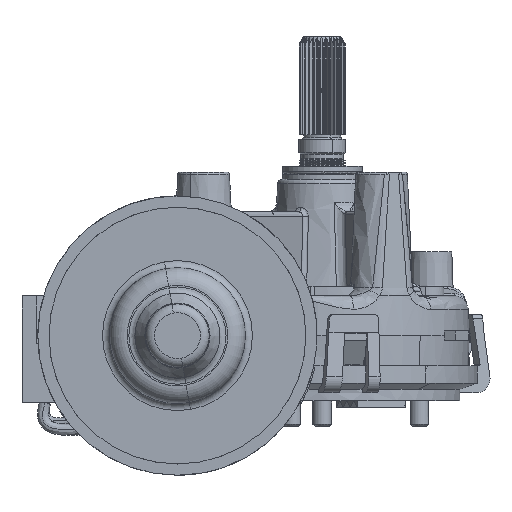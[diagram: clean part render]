
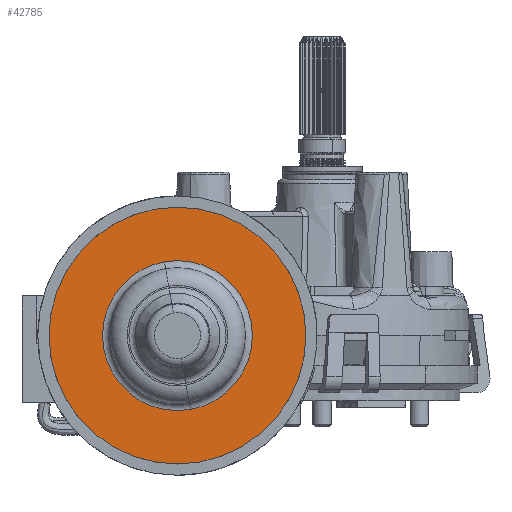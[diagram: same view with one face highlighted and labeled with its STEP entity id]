
A CAD part, front view. The second image highlights one B-rep face of the part: STEP entity #42785.
In plain terms, the highlighted planar face has unit normal (0, -1, 0).
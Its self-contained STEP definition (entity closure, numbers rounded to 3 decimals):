
#18711=CARTESIAN_POINT('Vertex',(112.429,-111.3,-13.639)) ;
#18864=CARTESIAN_POINT('Vertex',(94.079,-111.3,36.778)) ;
#18992=CARTESIAN_POINT('Vertex',(120.708,-111.3,24.36)) ;
#19043=CARTESIAN_POINT('Vertex',(124.847,-111.3,12.99)) ;
#19080=CARTESIAN_POINT('Vertex',(82.709,-111.3,32.639)) ;
#19201=CARTESIAN_POINT('Vertex',(101.059,-111.3,-17.778)) ;
#19235=CARTESIAN_POINT('Vertex',(74.43,-111.3,-5.36)) ;
#19281=CARTESIAN_POINT('Vertex',(70.291,-111.3,6.01)) ;
#30421=CARTESIAN_POINT('Control Point',(112.429,-111.3,-13.639)) ;
#30422=CARTESIAN_POINT('Control Point',(110.136,-111.3,-15.112)) ;
#30423=CARTESIAN_POINT('Control Point',(107.649,-111.3,-16.281)) ;
#30424=CARTESIAN_POINT('Control Point',(105.028,-111.3,-17.109)) ;
#30425=CARTESIAN_POINT('Control Point',(102.344,-111.3,-17.582)) ;
#30426=CARTESIAN_POINT('Vertex',(102.344,-111.3,-17.582)) ;
#30441=CARTESIAN_POINT('Axis2P3D Location',(97.569,-111.3,9.5)) ;
#30446=CARTESIAN_POINT('Axis2P3D Location',(97.569,-111.3,9.5)) ;
#30481=CARTESIAN_POINT('Axis2P3D Location',(97.569,-111.3,9.5)) ;
#30537=CARTESIAN_POINT('Vertex',(92.794,-111.3,36.582)) ;
#30540=CARTESIAN_POINT('Axis2P3D Location',(97.569,-111.3,9.5)) ;
#30552=CARTESIAN_POINT('Axis2P3D Location',(97.569,-111.3,9.5)) ;
#30564=CARTESIAN_POINT('Axis2P3D Location',(97.569,-111.3,9.5)) ;
#30569=CARTESIAN_POINT('Axis2P3D Location',(97.569,-111.3,9.5)) ;
#30589=CARTESIAN_POINT('Axis2P3D Location',(97.569,-111.3,9.5)) ;
#30621=CARTESIAN_POINT('Axis2P3D Location',(97.569,-111.3,9.5)) ;
#42750=CARTESIAN_POINT('Axis2P3D Location',(97.569,-111.3,9.5)) ;
#42767=CARTESIAN_POINT('Axis2P3D Location',(97.569,-111.3,9.5)) ;
#42771=CARTESIAN_POINT('Vertex',(100.356,-111.3,-6.306)) ;
#42773=CARTESIAN_POINT('Vertex',(94.782,-111.3,25.306)) ;
#42776=CARTESIAN_POINT('Axis2P3D Location',(97.569,-111.3,9.5)) ;
#30442=DIRECTION('Axis2P3D Direction',(0.,1.,0.)) ;
#30447=DIRECTION('Axis2P3D Direction',(0.,1.,0.)) ;
#30482=DIRECTION('Axis2P3D Direction',(0.,1.,0.)) ;
#30541=DIRECTION('Axis2P3D Direction',(0.,1.,0.)) ;
#30553=DIRECTION('Axis2P3D Direction',(0.,1.,0.)) ;
#30565=DIRECTION('Axis2P3D Direction',(0.,1.,0.)) ;
#30570=DIRECTION('Axis2P3D Direction',(0.,1.,0.)) ;
#30590=DIRECTION('Axis2P3D Direction',(0.,1.,0.)) ;
#30622=DIRECTION('Axis2P3D Direction',(0.,1.,0.)) ;
#42751=DIRECTION('Axis2P3D Direction',(0.,1.,0.)) ;
#42752=DIRECTION('Axis2P3D XDirection',(-0.174,0.,0.985)) ;
#42768=DIRECTION('Axis2P3D Direction',(0.,1.,0.)) ;
#42777=DIRECTION('Axis2P3D Direction',(0.,1.,0.)) ;
#30443=AXIS2_PLACEMENT_3D('Circle Axis2P3D',#30441,#30442,$) ;
#30448=AXIS2_PLACEMENT_3D('Circle Axis2P3D',#30446,#30447,$) ;
#30483=AXIS2_PLACEMENT_3D('Circle Axis2P3D',#30481,#30482,$) ;
#30542=AXIS2_PLACEMENT_3D('Circle Axis2P3D',#30540,#30541,$) ;
#30554=AXIS2_PLACEMENT_3D('Circle Axis2P3D',#30552,#30553,$) ;
#30566=AXIS2_PLACEMENT_3D('Circle Axis2P3D',#30564,#30565,$) ;
#30571=AXIS2_PLACEMENT_3D('Circle Axis2P3D',#30569,#30570,$) ;
#30591=AXIS2_PLACEMENT_3D('Circle Axis2P3D',#30589,#30590,$) ;
#30623=AXIS2_PLACEMENT_3D('Circle Axis2P3D',#30621,#30622,$) ;
#42753=AXIS2_PLACEMENT_3D('Plane Axis2P3D',#42750,#42751,#42752) ;
#42769=AXIS2_PLACEMENT_3D('Circle Axis2P3D',#42767,#42768,$) ;
#42778=AXIS2_PLACEMENT_3D('Circle Axis2P3D',#42776,#42777,$) ;
#42756=ORIENTED_EDGE('',*,*,#30556,.F.) ;
#42757=ORIENTED_EDGE('',*,*,#30573,.F.) ;
#42758=ORIENTED_EDGE('',*,*,#30625,.F.) ;
#42759=ORIENTED_EDGE('',*,*,#30568,.F.) ;
#42760=ORIENTED_EDGE('',*,*,#30485,.F.) ;
#42761=ORIENTED_EDGE('',*,*,#30428,.F.) ;
#42762=ORIENTED_EDGE('',*,*,#30450,.F.) ;
#42763=ORIENTED_EDGE('',*,*,#30593,.F.) ;
#42764=ORIENTED_EDGE('',*,*,#30445,.F.) ;
#42765=ORIENTED_EDGE('',*,*,#30544,.F.) ;
#42782=ORIENTED_EDGE('',*,*,#42775,.T.) ;
#42783=ORIENTED_EDGE('',*,*,#42780,.T.) ;
#42784=FACE_BOUND('',#42781,.T.) ;
#42785=ADVANCED_FACE('Brep With Voids',(#42766,#42784),#42754,.F.) ;
#30420=B_SPLINE_CURVE_WITH_KNOTS('',4,(#30421,#30422,#30423,#30424,#30425),.UNSPECIFIED.,.F.,.U.,(5,5),(-5.45,5.45),.UNSPECIFIED.) ;
#30444=CIRCLE('generated circle',#30443,27.5) ;
#30449=CIRCLE('generated circle',#30448,27.5) ;
#30484=CIRCLE('generated circle',#30483,27.5) ;
#30543=CIRCLE('generated circle',#30542,27.5) ;
#30555=CIRCLE('generated circle',#30554,27.5) ;
#30567=CIRCLE('generated circle',#30566,27.5) ;
#30572=CIRCLE('generated circle',#30571,27.5) ;
#30592=CIRCLE('generated circle',#30591,27.5) ;
#30624=CIRCLE('generated circle',#30623,27.5) ;
#42770=CIRCLE('generated circle',#42769,16.05) ;
#42779=CIRCLE('generated circle',#42778,16.05) ;
#30428=EDGE_CURVE('',#18712,#30427,#30420,.T.) ;
#30445=EDGE_CURVE('',#18865,#18993,#30444,.T.) ;
#30450=EDGE_CURVE('',#19044,#18712,#30449,.T.) ;
#30485=EDGE_CURVE('',#30427,#19202,#30484,.T.) ;
#30544=EDGE_CURVE('',#30538,#18865,#30543,.T.) ;
#30556=EDGE_CURVE('',#19081,#30538,#30555,.T.) ;
#30568=EDGE_CURVE('',#19202,#19236,#30567,.T.) ;
#30573=EDGE_CURVE('',#19282,#19081,#30572,.T.) ;
#30593=EDGE_CURVE('',#18993,#19044,#30592,.T.) ;
#30625=EDGE_CURVE('',#19236,#19282,#30624,.T.) ;
#42775=EDGE_CURVE('',#42772,#42774,#42770,.T.) ;
#42780=EDGE_CURVE('',#42774,#42772,#42779,.T.) ;
#42755=EDGE_LOOP('',(#42756,#42757,#42758,#42759,#42760,#42761,#42762,#42763,#42764,#42765)) ;
#42781=EDGE_LOOP('',(#42782,#42783)) ;
#42766=FACE_OUTER_BOUND('',#42755,.T.) ;
#42754=PLANE('Plane',#42753) ;
#18712=VERTEX_POINT('',#18711) ;
#18865=VERTEX_POINT('',#18864) ;
#18993=VERTEX_POINT('',#18992) ;
#19044=VERTEX_POINT('',#19043) ;
#19081=VERTEX_POINT('',#19080) ;
#19202=VERTEX_POINT('',#19201) ;
#19236=VERTEX_POINT('',#19235) ;
#19282=VERTEX_POINT('',#19281) ;
#30427=VERTEX_POINT('',#30426) ;
#30538=VERTEX_POINT('',#30537) ;
#42772=VERTEX_POINT('',#42771) ;
#42774=VERTEX_POINT('',#42773) ;
